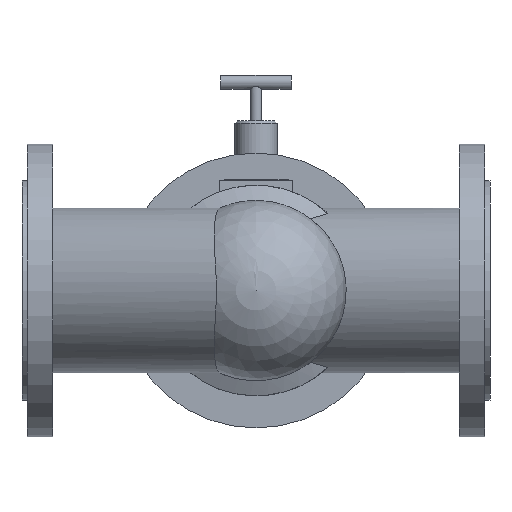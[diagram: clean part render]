
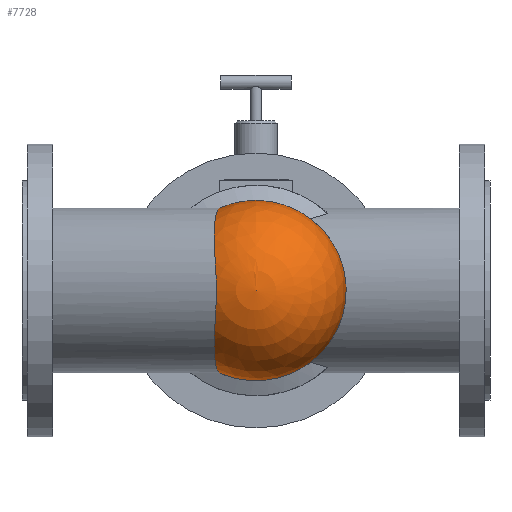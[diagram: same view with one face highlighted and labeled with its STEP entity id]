
A CAD part, front view. The second image highlights one B-rep face of the part: STEP entity #7728.
In plain terms, the highlighted spherical face has radius 77 mm.
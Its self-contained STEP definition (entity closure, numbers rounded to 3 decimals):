
#14=SPHERICAL_SURFACE('',#8208,77.);
#253=B_SPLINE_CURVE_WITH_KNOTS('',3,(#12916,#12917,#12918,#12919,#12920,
#12921,#12922,#12923,#12924,#12925,#12926,#12927,#12928,#12929,#12930,#12931,
#12932,#12933,#12934,#12935),.UNSPECIFIED.,.F.,.F.,(4,2,2,2,2,2,2,2,2,4),
(-43.098,-42.428,-41.759,-40.419,
-39.08,-37.74,-36.367,-34.994,-33.621,
-32.696),.UNSPECIFIED.);
#254=B_SPLINE_CURVE_WITH_KNOTS('',3,(#12936,#12937,#12938,#12939,#12940,
#12941,#12942,#12943,#12944,#12945,#12946,#12947,#12948,#12949,#12950,#12951,
#12952,#12953,#12954,#12955),.UNSPECIFIED.,.F.,.F.,(4,2,2,2,2,2,2,2,2,4),
(32.696,33.621,34.994,36.367,37.74,
39.08,40.419,41.759,42.428,43.098),
 .UNSPECIFIED.);
#1040=FACE_OUTER_BOUND('',#1481,.T.);
#1481=EDGE_LOOP('',(#6870,#6871,#6872,#6873,#6874,#6875));
#3089=CIRCLE('',#8060,77.);
#3090=CIRCLE('',#8061,77.);
#3148=CIRCLE('',#8209,77.);
#3672=VERTEX_POINT('',#12649);
#3673=VERTEX_POINT('',#12650);
#3674=VERTEX_POINT('',#12652);
#3717=VERTEX_POINT('',#12915);
#3840=VERTEX_POINT('',#13340);
#4625=EDGE_CURVE('',#3672,#3673,#3089,.T.);
#4626=EDGE_CURVE('',#3673,#3674,#3090,.T.);
#4688=EDGE_CURVE('',#3717,#3674,#253,.T.);
#4689=EDGE_CURVE('',#3672,#3717,#254,.T.);
#4874=EDGE_CURVE('',#3673,#3840,#3148,.T.);
#6870=ORIENTED_EDGE('',*,*,#4688,.T.);
#6871=ORIENTED_EDGE('',*,*,#4626,.F.);
#6872=ORIENTED_EDGE('',*,*,#4874,.T.);
#6873=ORIENTED_EDGE('',*,*,#4874,.F.);
#6874=ORIENTED_EDGE('',*,*,#4625,.F.);
#6875=ORIENTED_EDGE('',*,*,#4689,.T.);
#7728=ADVANCED_FACE('',(#1040),#14,.T.);
#8060=AXIS2_PLACEMENT_3D('',#12651,#9381,#9382);
#8061=AXIS2_PLACEMENT_3D('',#12653,#9383,#9384);
#8208=AXIS2_PLACEMENT_3D('',#13339,#9851,#9852);
#8209=AXIS2_PLACEMENT_3D('',#13341,#9853,#9854);
#9381=DIRECTION('center_axis',(0.,1.,0.));
#9382=DIRECTION('ref_axis',(1.,0.,0.));
#9383=DIRECTION('center_axis',(0.,1.,0.));
#9384=DIRECTION('ref_axis',(1.,0.,0.));
#9851=DIRECTION('center_axis',(0.,1.,0.));
#9852=DIRECTION('ref_axis',(0.,0.,-1.));
#9853=DIRECTION('center_axis',(1.,0.,0.));
#9854=DIRECTION('ref_axis',(0.,0.,1.));
#12649=CARTESIAN_POINT('',(-32.715,-176.089,40.861));
#12650=CARTESIAN_POINT('',(-1.436,-176.089,47.5));
#12651=CARTESIAN_POINT('Origin',(-1.436,-176.089,-29.5));
#12652=CARTESIAN_POINT('',(-32.715,-176.089,-99.861));
#12653=CARTESIAN_POINT('Origin',(-1.436,-176.089,-29.5));
#12915=CARTESIAN_POINT('',(-35.259,-245.263,-29.5));
#12916=CARTESIAN_POINT('Ctrl Pts',(-35.259,-245.263,
-29.5));
#12917=CARTESIAN_POINT('Ctrl Pts',(-35.259,-245.263,
-31.732));
#12918=CARTESIAN_POINT('Ctrl Pts',(-35.293,-245.138,
-33.993));
#12919=CARTESIAN_POINT('Ctrl Pts',(-35.419,-244.63,
-38.53));
#12920=CARTESIAN_POINT('Ctrl Pts',(-35.512,-244.246,
-40.806));
#12921=CARTESIAN_POINT('Ctrl Pts',(-35.844,-242.716,
-47.597));
#12922=CARTESIAN_POINT('Ctrl Pts',(-36.132,-241.187,
-52.077));
#12923=CARTESIAN_POINT('Ctrl Pts',(-36.631,-237.259,
-60.66));
#12924=CARTESIAN_POINT('Ctrl Pts',(-36.84,-234.856,
-64.769));
#12925=CARTESIAN_POINT('Ctrl Pts',(-37.082,-229.401,
-72.373));
#12926=CARTESIAN_POINT('Ctrl Pts',(-37.116,-226.348,
-75.868));
#12927=CARTESIAN_POINT('Ctrl Pts',(-37.005,-219.836,
-82.14));
#12928=CARTESIAN_POINT('Ctrl Pts',(-36.853,-216.136,
-85.123));
#12929=CARTESIAN_POINT('Ctrl Pts',(-36.343,-208.121,
-90.389));
#12930=CARTESIAN_POINT('Ctrl Pts',(-35.985,-203.808,
-92.672));
#12931=CARTESIAN_POINT('Ctrl Pts',(-35.094,-194.842,
-96.344));
#12932=CARTESIAN_POINT('Ctrl Pts',(-34.561,-190.183,
-97.736));
#12933=CARTESIAN_POINT('Ctrl Pts',(-33.574,-182.358,
-99.266));
#12934=CARTESIAN_POINT('Ctrl Pts',(-33.151,-179.2,
-99.667));
#12935=CARTESIAN_POINT('Ctrl Pts',(-32.715,-176.089,
-99.861));
#12936=CARTESIAN_POINT('Ctrl Pts',(-32.715,-176.089,
40.861));
#12937=CARTESIAN_POINT('Ctrl Pts',(-33.151,-179.2,
40.667));
#12938=CARTESIAN_POINT('Ctrl Pts',(-33.574,-182.358,
40.266));
#12939=CARTESIAN_POINT('Ctrl Pts',(-34.561,-190.183,
38.736));
#12940=CARTESIAN_POINT('Ctrl Pts',(-35.094,-194.842,
37.344));
#12941=CARTESIAN_POINT('Ctrl Pts',(-35.985,-203.808,
33.672));
#12942=CARTESIAN_POINT('Ctrl Pts',(-36.343,-208.121,
31.389));
#12943=CARTESIAN_POINT('Ctrl Pts',(-36.853,-216.136,
26.123));
#12944=CARTESIAN_POINT('Ctrl Pts',(-37.005,-219.836,
23.14));
#12945=CARTESIAN_POINT('Ctrl Pts',(-37.116,-226.348,
16.868));
#12946=CARTESIAN_POINT('Ctrl Pts',(-37.082,-229.401,
13.373));
#12947=CARTESIAN_POINT('Ctrl Pts',(-36.84,-234.856,
5.769));
#12948=CARTESIAN_POINT('Ctrl Pts',(-36.631,-237.259,
1.66));
#12949=CARTESIAN_POINT('Ctrl Pts',(-36.132,-241.187,
-6.923));
#12950=CARTESIAN_POINT('Ctrl Pts',(-35.844,-242.716,
-11.403));
#12951=CARTESIAN_POINT('Ctrl Pts',(-35.512,-244.246,
-18.194));
#12952=CARTESIAN_POINT('Ctrl Pts',(-35.419,-244.63,
-20.47));
#12953=CARTESIAN_POINT('Ctrl Pts',(-35.293,-245.138,
-25.007));
#12954=CARTESIAN_POINT('Ctrl Pts',(-35.259,-245.263,
-27.268));
#12955=CARTESIAN_POINT('Ctrl Pts',(-35.259,-245.263,
-29.5));
#13339=CARTESIAN_POINT('Origin',(-1.436,-176.089,-29.5));
#13340=CARTESIAN_POINT('',(-1.436,-253.089,-29.5));
#13341=CARTESIAN_POINT('Origin',(-1.436,-176.089,-29.5));
